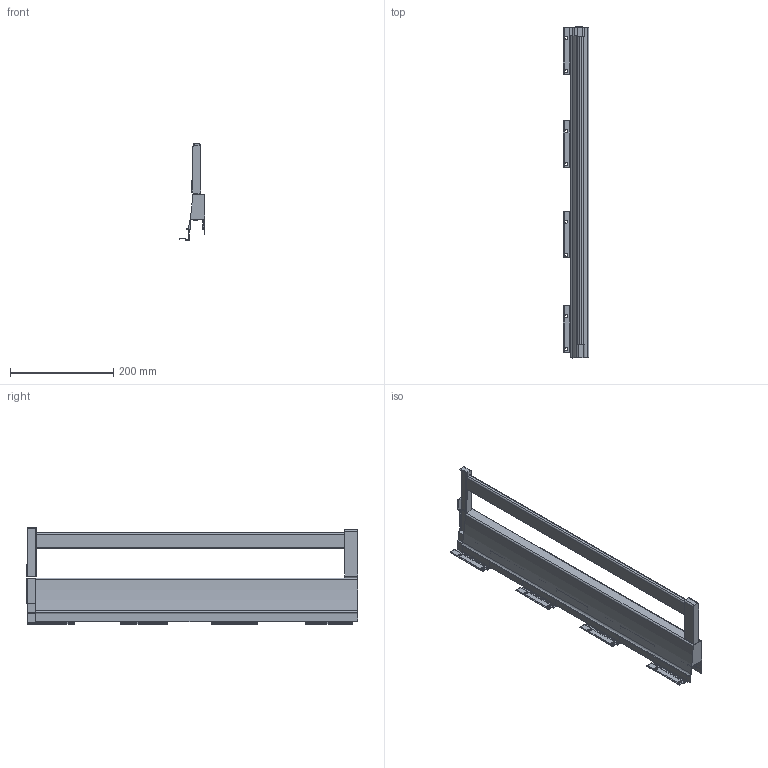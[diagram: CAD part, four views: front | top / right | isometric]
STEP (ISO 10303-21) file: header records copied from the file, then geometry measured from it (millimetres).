
FILE_DESCRIPTION (( 'STEP AP214' ), '1' );
FILE_NAME ('_XP Agantis Dekorseite H95 NL650 RE Rechteckreling.step', '2010-07-08T06:08:18', ( 'grass' ), ( '' ), 'SwSTEP 2.0', 'SolidWorks 2010', '' );
FILE_SCHEMA (( 'AUTOMOTIVE_DESIGN' ));
Length unit declared in the file: millimetre
Products named in the file (1): _XP Agantis Dekorseite H95 NL650 RE Rechteckreling
Bounding box: 50.01 x 642.45 x 187 mm (x, y, z)
Volume: 1150699.7 mm3; surface area: 275273.6 mm2
Topology: 2 solids, 2 shells, 194 faces, 561 edges, 366 vertices
Faces by surface type: plane 151, cylinder 43
Entity records: 6391 total; most frequent: ORIENTED_EDGE 1122, CARTESIAN_POINT 1122, DIRECTION 1038, EDGE_CURVE 561, VECTOR 474, LINE 474, VERTEX_POINT 366, AXIS2_PLACEMENT_3D 282
